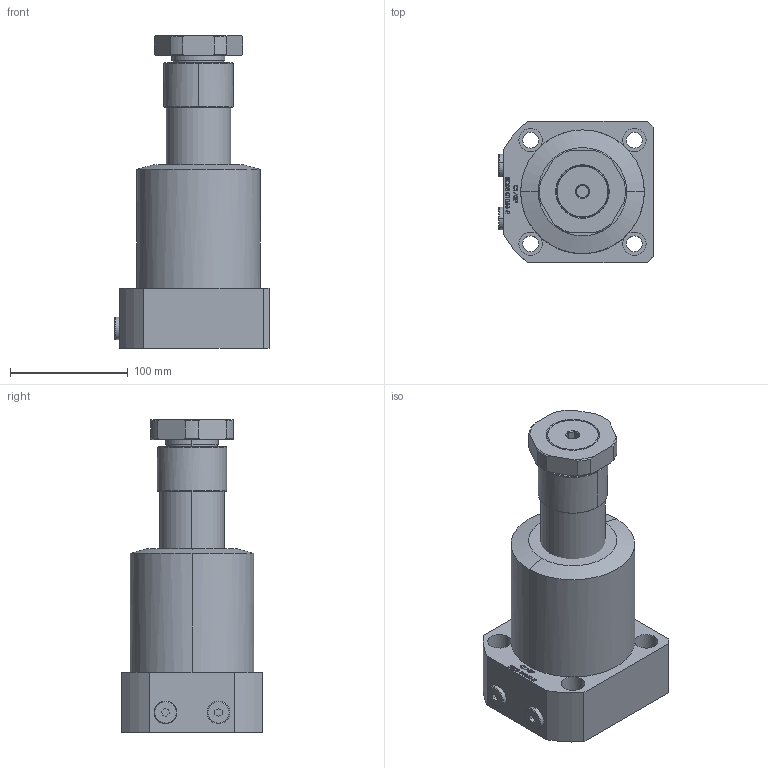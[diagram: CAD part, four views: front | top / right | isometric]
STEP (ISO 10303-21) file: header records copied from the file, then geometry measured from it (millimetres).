
FILE_DESCRIPTION (( 'STEP AP203' ), '1' );
FILE_NAME ('SC08-01051-R.STEP', '2022-07-08T17:24:04', ( '' ), ( '' ), 'SwSTEP 2.0', 'SolidWorks 2017', '' );
FILE_SCHEMA (( 'CONFIG_CONTROL_DESIGN' ));
Length unit declared in the file: millimetre
Products named in the file (6): SC08-01051-05 plug; SC08-01051-04 sleeve; SC08-01051-03-nut; SC08-01051-R; SC87-01051-L BODY; SC08-01051-Piston
Assembly tree (6 placements, depth 2):
  SC08-01051-R
    SC87-01051-L BODY
    SC08-01051-Piston
    SC08-01051-05 plug  x2
    SC08-01051-04 sleeve
    SC08-01051-03-nut
Bounding box: 131 x 120 x 265.6 mm (x, y, z)
Volume: 1940551.3 mm3; surface area: 151418.8 mm2
Topology: 6 solids, 6 shells, 384 faces, 960 edges, 627 vertices
Faces by surface type: plane 168, bspline 111, cylinder 62, cone 41, sphere 2
Entity records: 18372 total; most frequent: CARTESIAN_POINT 9524, ORIENTED_EDGE 1856, DIRECTION 1374, EDGE_CURVE 928, VERTEX_POINT 607, LINE 480, VECTOR 480, AXIS2_PLACEMENT_3D 447
